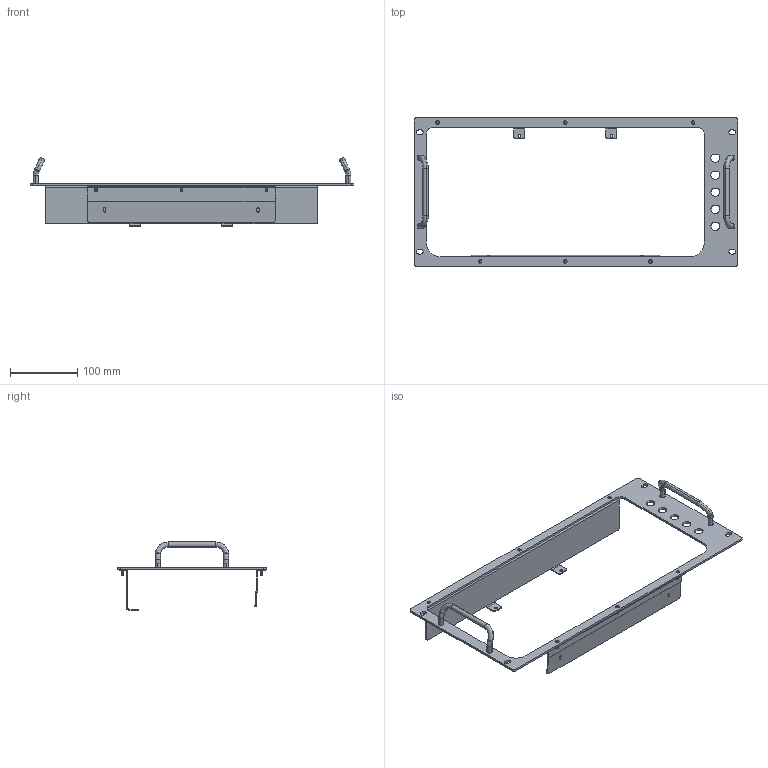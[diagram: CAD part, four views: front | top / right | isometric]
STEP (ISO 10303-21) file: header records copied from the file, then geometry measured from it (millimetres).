
FILE_DESCRIPTION((''),'2;1');
FILE_NAME('AFG31K_RMK_ASM','2025-10-09T15:23:32',('u603758'),(''),'CREO PARAMETRIC BY PTC INC, 2022284','CREO PARAMETRIC BY PTC INC, 2022284','');
FILE_SCHEMA(('CONFIG_CONTROL_DESIGN','SHAPE_APPEARANCE_LAYERS_GROUPS'));
Length unit declared in the file: inch
Products named in the file (8): 3868136; PEM-FHS-632-8; HH-30-3; 8-32X3-8PFH; 3868136_ASM; 3868134; 3868135; AFG31K_RMK_ASM
Assembly tree (16 placements, depth 3):
  AFG31K_RMK_ASM
    3868136_ASM
      3868136
      PEM-FHS-632-8  x6
      HH-30-3  x2
      8-32X3-8PFH  x4
    3868134
    3868135
Bounding box: 482.6 x 220.98 x 101.61 mm (x, y, z)
Volume: 173311.6 mm3; surface area: 167531 mm2
Topology: 15 solids, 15 shells, 650 faces, 1628 edges, 1018 vertices
Faces by surface type: cylinder 313, plane 167, torus 64, cone 58, bspline 48
Entity records: 13209 total; most frequent: CARTESIAN_POINT 4790, DIRECTION 1443, ORIENTED_EDGE 1338, EDGE_CURVE 669, AXIS2_PLACEMENT_3D 546, VERTEX_POINT 419, VECTOR 351, LINE 351
